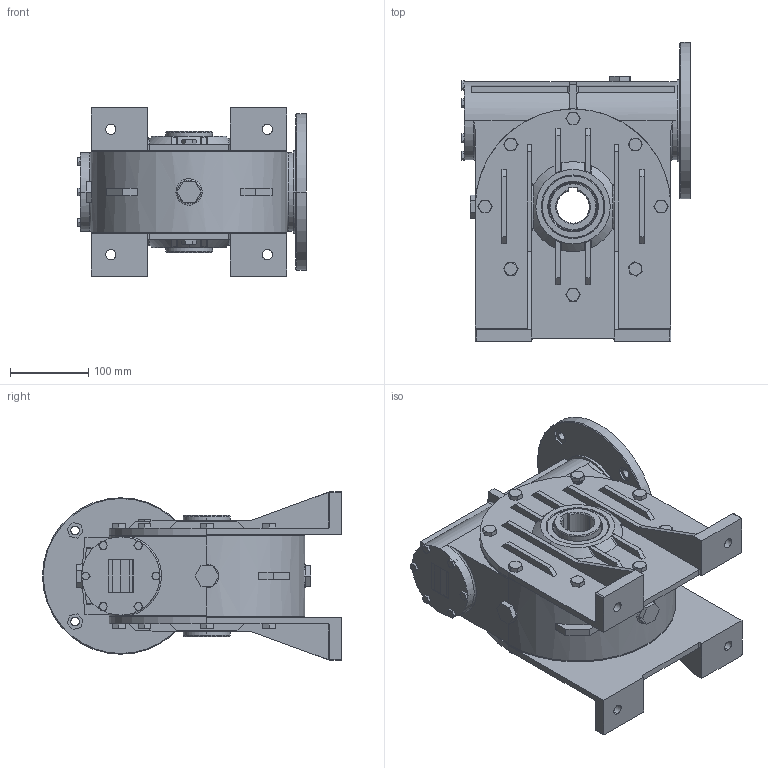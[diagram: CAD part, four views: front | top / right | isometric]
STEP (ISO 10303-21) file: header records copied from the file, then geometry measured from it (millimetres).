
FILE_DESCRIPTION (( 'STEP AP203' ), '1' );
FILE_NAME ('3F002369.STEP', '2012-07-24T06:05:28', ( 'Amministratore' ), ( 'SerteK sas' ), 'SwSTEP 2.0', 'SolidWorks 2009', '' );
FILE_SCHEMA (( 'CONFIG_CONTROL_DESIGN' ));
Products named in the file (1): 3F002369
Bounding box: 292.5 x 382 x 215.3 mm (x, y, z)
Surface area: 976845 mm2 (no closed solid volume)
Topology: 0 solids, 42 shells, 2310 faces, 5746 edges, 3565 vertices
Faces by surface type: plane 795, cylinder 751, bspline 394, cone 370
Entity records: 97463 total; most frequent: CARTESIAN_POINT 44300, ORIENTED_EDGE 11292, DIRECTION 10963, EDGE_CURVE 5658, AXIS2_PLACEMENT_3D 4288, VERTEX_POINT 3561, EDGE_LOOP 2529, VECTOR 2387
